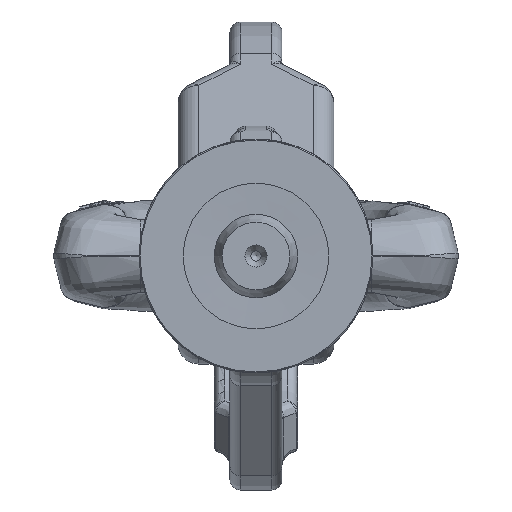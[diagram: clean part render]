
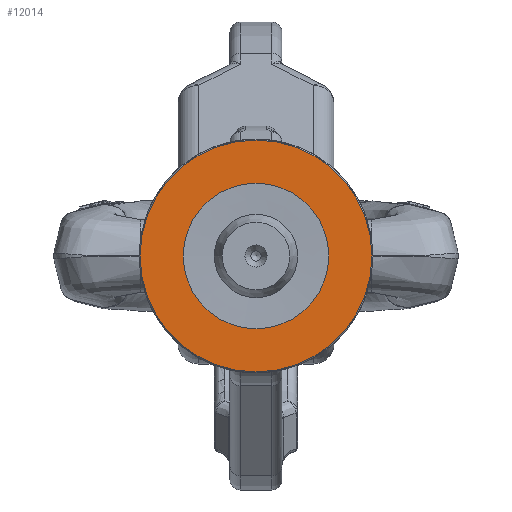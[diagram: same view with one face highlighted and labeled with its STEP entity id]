
A CAD part, front view. The second image highlights one B-rep face of the part: STEP entity #12014.
In plain terms, the highlighted planar face has unit normal (0, -1, 0) as drawn and (0, 0, -1) by its records, which use the part's own axes.
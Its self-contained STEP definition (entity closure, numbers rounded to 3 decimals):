
#2618=PLANE('',#12993);
#2836=FACE_BOUND('',#4224,.T.);
#3440=FACE_OUTER_BOUND('',#4223,.T.);
#4223=EDGE_LOOP('',(#10607));
#4224=EDGE_LOOP('',(#10608));
#4747=CIRCLE('',#12990,22.3);
#4749=CIRCLE('',#12994,14.);
#5717=VERTEX_POINT('',#32550);
#5719=VERTEX_POINT('',#32556);
#7395=EDGE_CURVE('',#5717,#5717,#4747,.T.);
#7397=EDGE_CURVE('',#5719,#5719,#4749,.T.);
#10607=ORIENTED_EDGE('',*,*,#7395,.F.);
#10608=ORIENTED_EDGE('',*,*,#7397,.F.);
#12014=ADVANCED_FACE('',(#3440,#2836),#2618,.F.);
#12990=AXIS2_PLACEMENT_3D('',#32551,#15088,#15089);
#12993=AXIS2_PLACEMENT_3D('',#32555,#15094,#15095);
#12994=AXIS2_PLACEMENT_3D('',#32557,#15096,#15097);
#15088=DIRECTION('center_axis',(0.,0.,1.));
#15089=DIRECTION('ref_axis',(-1.,0.,0.));
#15094=DIRECTION('center_axis',(0.,0.,1.));
#15095=DIRECTION('ref_axis',(1.,0.,0.));
#15096=DIRECTION('center_axis',(0.,0.,-1.));
#15097=DIRECTION('ref_axis',(-1.,0.,0.));
#32550=CARTESIAN_POINT('',(22.3,0.,0.));
#32551=CARTESIAN_POINT('Origin',(0.,0.,0.));
#32555=CARTESIAN_POINT('Origin',(0.,0.,0.));
#32556=CARTESIAN_POINT('',(14.,0.,0.));
#32557=CARTESIAN_POINT('Origin',(0.,0.,0.));
